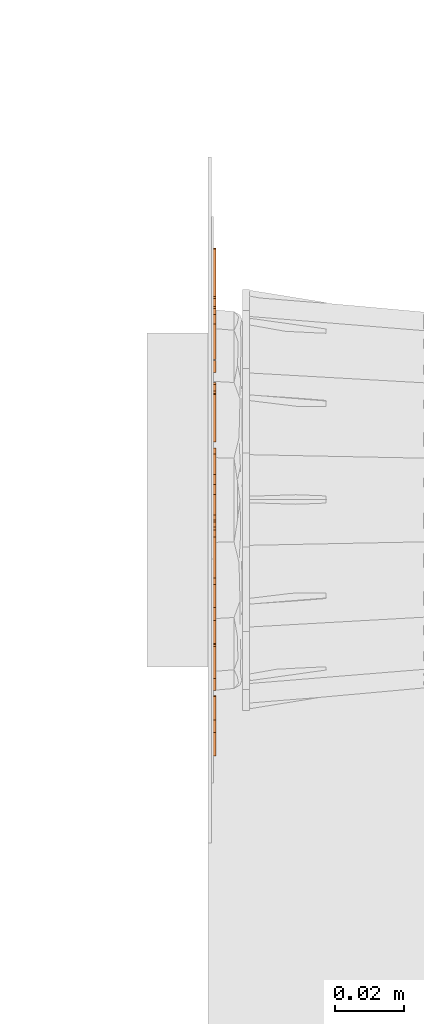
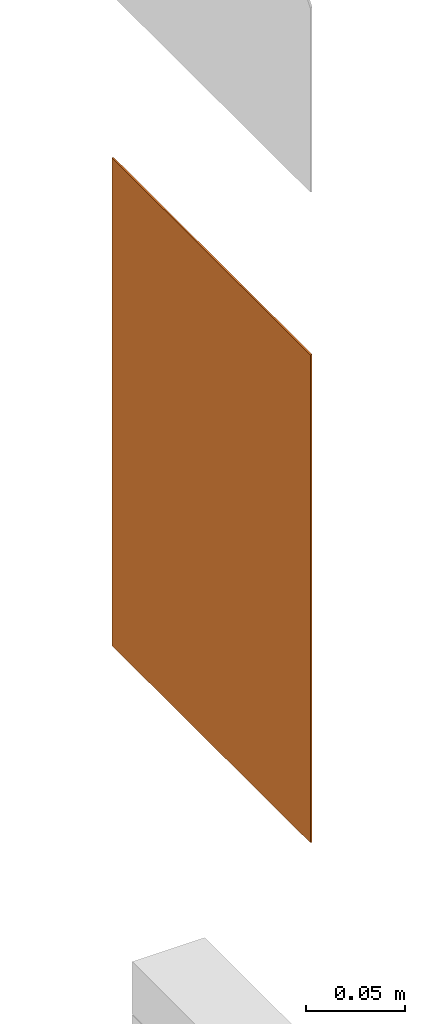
# One storey, part 72 of 119: 1 proxy.
"""IFC2X3 building model written with IfcOpenShell, lengths in metres."""

from ifc_helpers import new_model, entity, si_unit, converted_unit, derived_unit, direction, frame, frame_2d, origin, origin_2d_with_axis, place, context, subcontext, project, spatial, polyline, circle_curve, parameter, trimmed, segment, composite_curve, rectangle, circle, outline, extrude, source, transform, mapped, material, material_list, type_object, type_shapes, element, save


model = new_model("IFC2X3")

# Units and contexts
model_context = context("Model", 3, precision=1e-05, world=origin(), true_north=direction((6.12303176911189e-17, 1.0)))
body_context = subcontext(model_context, "Body", "Model", "MODEL_VIEW")
ifc_project = project(units=[si_unit("LENGTHUNIT", "METRE"), si_unit("AREAUNIT", "SQUARE_METRE"), si_unit("VOLUMEUNIT", "CUBIC_METRE"), converted_unit("PLANEANGLEUNIT", "DEGREE", entity("IfcRatioMeasure", 0.0174532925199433), si_unit("PLANEANGLEUNIT", "RADIAN"), dimensions=[0, 0, 0, 0, 0, 0, 0]), si_unit("MASSUNIT", "GRAM", prefix="KILO"), derived_unit("MASSDENSITYUNIT", [(si_unit("MASSUNIT", "GRAM", prefix="KILO"), 1), (si_unit("LENGTHUNIT", "METRE"), -3)]), derived_unit("MOMENTOFINERTIAUNIT", [(si_unit("LENGTHUNIT", "METRE"), 4)]), si_unit("TIMEUNIT", "SECOND"), si_unit("FREQUENCYUNIT", "HERTZ"), si_unit("THERMODYNAMICTEMPERATUREUNIT", "DEGREE_CELSIUS"), derived_unit("THERMALTRANSMITTANCEUNIT", [(si_unit("MASSUNIT", "GRAM", prefix="KILO"), 1), (si_unit("THERMODYNAMICTEMPERATUREUNIT", "KELVIN"), -1), (si_unit("TIMEUNIT", "SECOND"), -3)]), derived_unit("VOLUMETRICFLOWRATEUNIT", [(si_unit("LENGTHUNIT", "METRE"), 3), (si_unit("TIMEUNIT", "SECOND"), -1)]), si_unit("ELECTRICCURRENTUNIT", "AMPERE"), si_unit("ELECTRICVOLTAGEUNIT", "VOLT"), si_unit("POWERUNIT", "WATT"), si_unit("FORCEUNIT", "NEWTON", prefix="KILO"), si_unit("ILLUMINANCEUNIT", "LUX"), si_unit("LUMINOUSFLUXUNIT", "LUMEN"), si_unit("LUMINOUSINTENSITYUNIT", "CANDELA"), derived_unit("USERDEFINED", [(si_unit("MASSUNIT", "GRAM", prefix="KILO"), -1), (si_unit("LENGTHUNIT", "METRE"), -2), (si_unit("TIMEUNIT", "SECOND"), 3), (si_unit("LUMINOUSFLUXUNIT", "LUMEN"), 1)]), derived_unit("LINEARVELOCITYUNIT", [(si_unit("LENGTHUNIT", "METRE"), 1), (si_unit("TIMEUNIT", "SECOND"), -1)]), si_unit("PRESSUREUNIT", "PASCAL"), derived_unit("USERDEFINED", [(si_unit("LENGTHUNIT", "METRE"), -2), (si_unit("MASSUNIT", "GRAM", prefix="KILO"), 1), (si_unit("TIMEUNIT", "SECOND"), -2)]), derived_unit("LINEARFORCEUNIT", [(si_unit("MASSUNIT", "GRAM", prefix="KILO"), 1), (si_unit("LENGTHUNIT", "METRE"), 1), (si_unit("TIMEUNIT", "SECOND"), -2), (si_unit("LENGTHUNIT", "METRE"), -1)]), derived_unit("PLANARFORCEUNIT", [(si_unit("MASSUNIT", "GRAM", prefix="KILO"), 1), (si_unit("LENGTHUNIT", "METRE"), 1), (si_unit("TIMEUNIT", "SECOND"), -2), (si_unit("LENGTHUNIT", "METRE"), -2)])], contexts=[model_context])

# Site, building, storey
site_placement = place(None, origin())
site = spatial("IfcSite", under=ifc_project, at=site_placement, Name="Default", CompositionType="ELEMENT")
building_placement = place(site_placement, origin())
building = spatial("IfcBuilding", under=site, at=building_placement, CompositionType="ELEMENT")
storey_placement = place(building_placement, origin())
storey = spatial("IfcBuildingStorey", under=building, at=storey_placement, Name="PAV. 01 - TÉRREO", CompositionType="ELEMENT", Elevation=0.0)

# Proxy
ifc_material_1 = material(Name="Plastico branco")
ifc_material_2 = material(Name="Plastico vermelho")
ifc_material_list = material_list([ifc_material_1, ifc_material_2])
building_element_proxy_type = type_object("IfcBuildingElementProxyType", Name="Sinalização de equipamentos - E02 - Comando manual de alarme:Distância 08m", PredefinedType="NOTDEFINED", material=ifc_material_1)
shared_shape = source(origin(), body_context, "Body", "SweptSolid", [
    extrude(outline(polyline([(-0.00862797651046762, -0.00563161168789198), (-0.00493908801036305, -0.00563161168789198), (-0.00349461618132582, -0.00153589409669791), (0.00346718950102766, -0.00153589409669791), (0.00489337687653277, -0.00563161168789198), (0.00863254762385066, -0.00563161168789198), (0.00190386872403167, 0.0127991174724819), (-0.00183530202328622, 0.0127991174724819), (-0.00862797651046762, -0.00563161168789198)]), holes=[polyline([(-0.00237012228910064, 0.00168216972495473), (2.2855566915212e-06, 0.00841084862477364), (0.00234269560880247, 0.00168216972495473), (-0.00237012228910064, 0.00168216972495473)])]), frame((-0.0659680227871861, -0.0022123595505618, 1.53273031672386), z_axis=(0.0, 1.0, 0.0), x_axis=(-1.0, 0.0, 0.0)), (0.0, 0.0, 1.0), 0.0022123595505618),
    extrude(outline(polyline([(-0.00721626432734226, -0.0054609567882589), (0.0112144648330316, -0.0054609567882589), (0.0112144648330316, -0.00195034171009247), (-0.00399820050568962, -0.00195034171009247), (-0.00399820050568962, 0.00741129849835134), (-0.00721626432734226, 0.00741129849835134), (-0.00721626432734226, -0.0054609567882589)])), frame((-0.0501237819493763, -0.0022123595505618, 1.53431496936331), z_axis=(0.0, 1.0, 0.0), x_axis=(0.0, 0.0, 1.0)), (0.0, 0.0, 1.0), 0.0022123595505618),
    extrude(outline(polyline([(-0.00862797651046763, -0.00563161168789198), (-0.00493908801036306, -0.00563161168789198), (-0.00349461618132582, -0.00153589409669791), (0.00346718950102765, -0.00153589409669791), (0.00489337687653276, -0.00563161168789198), (0.00863254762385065, -0.00563161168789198), (0.00190386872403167, 0.0127991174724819), (-0.00183530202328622, 0.0127991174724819), (-0.00862797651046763, -0.00563161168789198)]), holes=[polyline([(-0.00237012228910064, 0.00168216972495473), (2.28555669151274e-06, 0.00841084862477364), (0.00234269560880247, 0.00168216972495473), (-0.00237012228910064, 0.00168216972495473)])]), frame((-0.0332022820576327, -0.0022123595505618, 1.53273031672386), z_axis=(0.0, 1.0, 0.0), x_axis=(-1.0, 0.0, 0.0)), (0.0, 0.0, 1.0), 0.0022123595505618),
    extrude(outline(polyline([(-0.00817015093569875, -0.00955162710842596), (0.0102605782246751, -0.00955162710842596), (0.0102605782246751, -0.00179901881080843), (0.00976232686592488, 0.00245211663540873), (0.00798873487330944, 0.00457311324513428), (0.00506779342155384, 0.00536848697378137), (0.00162574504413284, 0.00421885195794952), (-8.38513611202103e-05, 0.000779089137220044), (-0.00161974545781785, 0.00262124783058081), (-0.00459554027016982, 0.00457768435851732), (-0.00817015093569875, 0.00683124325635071), (-0.00817015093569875, 0.00273095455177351), (-0.00396015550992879, 6.14243360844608e-05), (-0.00146204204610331, -0.00203443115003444), (-0.000563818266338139, -0.00523649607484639), (-0.00817015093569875, -0.00604101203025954), (-0.00817015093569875, -0.00955162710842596)]), holes=[polyline([(0.0026542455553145, -0.00604101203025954), (0.0026542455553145, -0.00314749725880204), (0.00286680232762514, 0.0003654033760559), (0.00698308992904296, -0.000135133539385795), (0.00704251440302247, -0.00298750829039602), (0.00704251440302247, -0.00604101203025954), (0.0026542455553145, -0.00604101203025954)])]), frame((-0.0132673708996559, -0.0022123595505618, 1.53526885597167), z_axis=(0.0, 1.0, 0.0), x_axis=(0.0, 0.0, 1.0)), (0.0, 0.0, 1.0), 0.0022123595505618),
    extrude(outline(polyline([(-0.00835388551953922, -0.0089231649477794), (0.0100768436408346, -0.0089231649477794), (0.0100768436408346, -0.00290757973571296), (-0.00249371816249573, -3.51624106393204e-07), (0.0100768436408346, 0.00290687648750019), (0.0100768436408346, 0.00892246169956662), (-0.00835388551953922, 0.00892246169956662), (-0.00835388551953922, 0.0054118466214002), (0.00615482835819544, 0.00526557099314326), (-0.00835388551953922, 0.00205664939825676), (-0.00835388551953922, -0.00205278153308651), (0.00615482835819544, -0.00526627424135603), (-0.00835388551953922, -0.00541254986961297), (-0.00835388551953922, -0.0089231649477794)])), frame((0.00453489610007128, -0.0022123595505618, 1.53545259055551), z_axis=(0.0, 1.0, 0.0), x_axis=(0.0, 0.0, 1.0)), (0.0, 0.0, 1.0), 0.0022123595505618),
    extrude(outline(polyline([(-0.00931288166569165, -0.00799640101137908), (0.00911784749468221, -0.00799640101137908), (0.00911784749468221, 0.00575350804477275), (0.00589978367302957, 0.00575350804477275), (0.00589978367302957, -0.00448578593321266), (0.0018040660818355, -0.00448578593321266), (0.0018040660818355, 0.00516840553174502), (-0.00141399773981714, 0.00516840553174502), (-0.00141399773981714, -0.00448578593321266), (-0.00609481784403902, -0.00448578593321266), (-0.00609481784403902, 0.00604605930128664), (-0.00931288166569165, 0.00604605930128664), (-0.00931288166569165, -0.00799640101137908)])), frame((0.0249643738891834, -0.0022123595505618, 1.53641158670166), z_axis=(0.0, 1.0, 0.0), x_axis=(0.0, 0.0, 1.0)), (0.0, 0.0, 1.0), 0.0022123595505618),
    extrude(outline(polyline([(-0.00963237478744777, -0.00923822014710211), (-0.00280770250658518, -0.00923822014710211), (0.000712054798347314, -0.00888624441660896), (0.00350043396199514, -0.00718807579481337), (0.00526716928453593, -0.00420313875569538), (0.00587284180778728, 0.000155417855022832), (0.00530602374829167, 0.00407743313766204), (0.00332216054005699, 0.00733206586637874), (0.000698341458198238, 0.00880396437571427), (-0.00260657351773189, 0.00919250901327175), (-0.00963237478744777, 0.00919250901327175), (-0.00963237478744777, -0.00923822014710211)]), holes=[polyline([(-0.00612175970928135, -0.00602015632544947), (-0.00612175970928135, 0.00597444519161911), (-0.00313225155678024, 0.00597444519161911), (-0.000709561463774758, 0.00580074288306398), (0.000906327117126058, 0.00504879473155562), (0.00195539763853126, 0.00330034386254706), (0.00236222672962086, -1.82844535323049e-05), (0.00195539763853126, -0.00324091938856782), (0.000819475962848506, -0.00499622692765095), (-0.00103411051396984, -0.00584645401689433), (-0.00432074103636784, -0.00602015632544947), (-0.00612175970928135, -0.00602015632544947)])]), frame((0.0505895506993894, -0.0022123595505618, 1.53629121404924), z_axis=(0.0, 1.0, 0.0), x_axis=(1.0, 0.0, 0.0)), (0.0, 0.0, 1.0), 0.0022123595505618),
    extrude(outline(polyline([(-0.00931288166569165, -0.00799640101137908), (0.00911784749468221, -0.00799640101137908), (0.00911784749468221, 0.00575350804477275), (0.00589978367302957, 0.00575350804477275), (0.00589978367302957, -0.00448578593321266), (0.0018040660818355, -0.00448578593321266), (0.0018040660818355, 0.00516840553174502), (-0.00141399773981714, 0.00516840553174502), (-0.00141399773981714, -0.00448578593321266), (-0.00609481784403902, -0.00448578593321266), (-0.00609481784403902, 0.00604605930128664), (-0.00931288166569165, 0.00604605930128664), (-0.00931288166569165, -0.00799640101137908)])), frame((0.0673843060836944, -0.0022123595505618, 1.53641158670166), z_axis=(0.0, 1.0, 0.0), x_axis=(0.0, 0.0, 1.0)), (0.0, 0.0, 1.0), 0.0022123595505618),
    extrude(rectangle(XDim=0.0022123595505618, YDim=0.00351061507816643, at=frame_2d((0.0, -4.22838847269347e-18), x_axis=(1.0, 0.0))), frame((-0.0588028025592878, -0.0011061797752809, 1.49460223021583), z_axis=(0.0, 0.0, 1.0), x_axis=(0.0, 1.0, 0.0)), (0.0, 0.0, 1.0), 0.0184307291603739),
    extrude(outline(polyline([(-0.00919708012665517, -0.00744862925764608), (0.00923364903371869, -0.00744862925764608), (0.00923364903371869, -0.00376888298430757), (-0.00317235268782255, 0.00396086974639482), (0.00923364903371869, 0.00396086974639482), (0.00923364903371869, 0.00747148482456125), (-0.00919708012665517, 0.00747148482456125), (-0.00919708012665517, 0.00367746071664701), (0.00302607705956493, -0.00393801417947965), (-0.00919708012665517, -0.00393801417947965), (-0.00919708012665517, -0.00744862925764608)])), frame((-0.046088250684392, -0.0022123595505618, 1.50379931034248), z_axis=(0.0, 1.0, 0.0), x_axis=(0.0, 0.0, 1.0)), (0.0, 0.0, 1.0), 0.0022123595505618),
    extrude(outline(polyline([(0.00431987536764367, 0.00106265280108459), (0.0080203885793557, 0.00106265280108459), (0.00679097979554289, 0.00611977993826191), (0.0025895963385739, 0.00904043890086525), (-0.00392677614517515, 0.00861545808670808), (-0.00830378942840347, 0.00297217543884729), (-0.00825825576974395, -0.00444402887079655), (-0.00308837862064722, -0.00880297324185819), (0.00280208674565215, -0.00859337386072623), (0.0057075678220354, -0.00587580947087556), (0.00256213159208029, -0.004210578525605), (0.000503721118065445, -0.0057818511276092), (-0.00230057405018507, -0.00567343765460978), (-0.00522195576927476, -0.00319871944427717), (-0.00505861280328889, 0.00160616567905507), (-0.0022796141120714, 0.00575840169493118), (0.00144185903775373, 0.00603088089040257), (0.00369975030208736, 0.00431216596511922), (0.00431987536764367, 0.00106265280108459)])), frame((-0.0268737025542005, -0.0022123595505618, 1.50399764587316), z_axis=(0.0, 1.0, 0.0), x_axis=(0.948683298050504, 0.0, -0.316227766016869)), (0.0, 0.0, 1.0), 0.0022123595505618),
    extrude(outline(polyline([(-0.00931288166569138, -0.00799640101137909), (0.00911784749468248, -0.00799640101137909), (0.00911784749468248, 0.00575350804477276), (0.00589978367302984, 0.00575350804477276), (0.00589978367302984, -0.00448578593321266), (0.00180406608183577, -0.00448578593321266), (0.00180406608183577, 0.00516840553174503), (-0.00141399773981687, 0.00516840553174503), (-0.00141399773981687, -0.00448578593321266), (-0.00609481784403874, -0.00448578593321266), (-0.00609481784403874, 0.00604605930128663), (-0.00931288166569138, 0.00604605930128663), (-0.00931288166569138, -0.00799640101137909)])), frame((-0.00867902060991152, -0.0022123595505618, 1.50391511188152), z_axis=(0.0, 1.0, 0.0), x_axis=(0.0, 0.0, 1.0)), (0.0, 0.0, 1.0), 0.0022123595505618),
    extrude(outline(polyline([(-0.00919708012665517, -0.00744862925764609), (0.00923364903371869, -0.00744862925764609), (0.00923364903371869, -0.00376888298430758), (-0.00317235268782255, 0.00396086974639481), (0.00923364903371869, 0.00396086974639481), (0.00923364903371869, 0.00747148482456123), (-0.00919708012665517, 0.00747148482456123), (-0.00919708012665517, 0.003677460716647), (0.00302607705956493, -0.00393801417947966), (-0.00919708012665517, -0.00393801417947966), (-0.00919708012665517, -0.00744862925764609)])), frame((0.00774118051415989, -0.0022123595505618, 1.50379931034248), z_axis=(0.0, 1.0, 0.0), x_axis=(0.0, 0.0, 1.0)), (0.0, 0.0, 1.0), 0.0022123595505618),
    extrude(outline(polyline([(-0.00963237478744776, -0.00923822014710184), (-0.00280770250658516, -0.00923822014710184), (0.000712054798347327, -0.00888624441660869), (0.00350043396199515, -0.00718807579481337), (0.00526716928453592, -0.00420313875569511), (0.0058728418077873, 0.000155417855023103), (0.00530602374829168, 0.00407743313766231), (0.003322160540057, 0.00733206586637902), (0.000698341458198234, 0.00880396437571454), (-0.00260657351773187, 0.00919250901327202), (-0.00963237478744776, 0.00919250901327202), (-0.00963237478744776, -0.00923822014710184)]), holes=[polyline([(-0.00612175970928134, -0.0060201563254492), (-0.00612175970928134, 0.00597444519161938), (-0.00313225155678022, 0.00597444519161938), (-0.000709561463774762, 0.00580074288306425), (0.00090632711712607, 0.00504879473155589), (0.00195539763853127, 0.00330034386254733), (0.00236222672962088, -1.82844535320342e-05), (0.00195539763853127, -0.00324091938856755), (0.000819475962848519, -0.00499622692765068), (-0.00103411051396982, -0.00584645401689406), (-0.00432074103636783, -0.0060201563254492), (-0.00612175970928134, -0.0060201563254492)])]), frame((0.0283556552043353, -0.0022123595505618, 1.5037947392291), z_axis=(0.0, 1.0, 0.0), x_axis=(1.0, 0.0, 0.0)), (0.0, 0.0, 1.0), 0.0022123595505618),
    extrude(rectangle(XDim=0.0022123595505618, YDim=0.00351061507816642, at=origin_2d_with_axis()), frame((0.0389093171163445, -0.0011061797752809, 1.49460223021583), z_axis=(0.0, 0.0, 1.0), x_axis=(0.0, 1.0, 0.0)), (0.0, 0.0, 1.0), 0.0184307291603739),
    extrude(outline(polyline([(-0.0027413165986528, -0.0072353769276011), (0.0020480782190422, -0.0072353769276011), (0.00482213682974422, -0.00601174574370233), (0.00685816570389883, -0.00399502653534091), (0.00824841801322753, -0.000275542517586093), (0.00687087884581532, 0.00646330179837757), (0.000381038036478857, 0.0100380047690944), (-0.00689652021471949, 0.0088964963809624), (-0.0104736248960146, 0.00305448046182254), (-0.00911725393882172, -0.00369921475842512), (-0.0027413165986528, -0.0072353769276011)]), holes=[polyline([(-0.00200878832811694, -0.00379965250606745), (-0.00638392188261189, -0.00151705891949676), (-0.00730473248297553, 0.00249405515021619), (-0.00508828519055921, 0.00593636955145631), (-0.000139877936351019, 0.00656516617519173), (0.00422261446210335, 0.00434280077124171), (0.00508584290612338, 0.000320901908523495), (0.00288428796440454, -0.00318203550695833), (-0.00200878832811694, -0.00379965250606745)])]), frame((0.0511902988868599, -0.0022123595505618, 1.50515350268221), z_axis=(0.0, 1.0, 0.0), x_axis=(0.172750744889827, 0.0, 0.984965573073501)), (0.0, 0.0, 1.0), 0.0022123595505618),
    extrude(outline(polyline([(-0.00331762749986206, -0.00249092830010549), (0.000995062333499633, -0.00249092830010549), (0.00269430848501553, -0.00010950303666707), (0.00127033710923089, 0.00393891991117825), (-0.000258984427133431, 0.00179563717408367), (0.0004052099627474, -0.000295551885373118), (-0.00178830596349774, -0.00034764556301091), (-0.00331762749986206, -0.00249092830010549)])), frame((-0.00979524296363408, -0.0022123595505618, 1.51574950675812), z_axis=(0.0, 1.0, 0.0), x_axis=(0.580837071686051, 0.0, 0.814019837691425)), (0.0, 0.0, 1.0), 0.0022123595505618),
    extrude(circle(Radius=0.0367452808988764, at=frame_2d((-5.36303450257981e-23, -2.70716782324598e-16), x_axis=(1.0, 0.0))), frame((0.0, -0.0011, 1.64973853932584), z_axis=(0.0, 1.0, 0.0), x_axis=(1.0, 0.0, 0.0)), (0.0, 0.0, 1.0), 0.0011),
    extrude(outline(polyline([(-0.0713787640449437, -0.075200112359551), (0.0713787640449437, -0.075200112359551), (0.0752001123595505, -0.0713787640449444), (0.0752001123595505, 0.0713787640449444), (0.0713787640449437, 0.075200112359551), (-0.0713787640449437, 0.075200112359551), (-0.0752001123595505, 0.0713787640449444), (-0.0752001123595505, -0.0713787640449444), (-0.0713787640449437, -0.075200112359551)]), holes=[composite_curve([segment(trimmed(circle_curve(origin_2d_with_axis(), 0.0583057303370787), [parameter(180.0)], [parameter(360.0)], True, "PARAMETER"), False, "CONTINUOUS"), segment(trimmed(circle_curve(origin_2d_with_axis(), 0.0583057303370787), [parameter(0.0)], [parameter(180.0)], True, "PARAMETER"), False, "CONTINUOUS")], self_intersect=False)]), frame((0.0, -0.0011, 1.64973853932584), z_axis=(0.0, 1.0, 0.0), x_axis=(1.0, 0.0, 0.0)), (0.0, 0.0, 1.0), 0.0011),
    extrude(rectangle(XDim=0.001, YDim=0.179, at=origin_2d_with_axis()), frame((0.0, -0.0005, 1.4605), z_axis=(0.0, 0.0, 1.0), x_axis=(0.0, 1.0, 0.0)), (0.0, 0.0, 1.0), 0.279),
    extrude(outline(polyline([(-0.150000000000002, -0.1), (0.150000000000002, -0.1), (0.150000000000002, 0.1), (-0.150000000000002, 0.1), (-0.150000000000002, -0.1)]), holes=[polyline([(-0.139500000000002, -0.0895000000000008), (-0.139500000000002, 0.0894999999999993), (0.139499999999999, 0.0894999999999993), (0.139499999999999, -0.0895000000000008), (-0.139500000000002, -0.0895000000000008)])]), frame((0.0, -0.001, 1.6), z_axis=(0.0, 1.0, 0.0), x_axis=(0.0, 0.0, -1.0)), (0.0, 0.0, 1.0), 0.001),
])
type_shapes(building_element_proxy_type, [shared_shape])
proxy_placement = place(storey_placement, frame((18.7740605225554, 28.4468743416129, 0.0), z_axis=(0.0, 0.0, 1.0), x_axis=(0.0, 1.0, 0.0)))
element("IfcBuildingElementProxy", 1, at=proxy_placement, inside=storey, type_object=building_element_proxy_type, material=ifc_material_list, Name="Sinalização de equipamentos - E02 - Comando manual de alarme:Distância 08m", ObjectType="Sinalização de equipamentos - E02 - Comando manual de alarme:Distância 08m", context=body_context, shape_type="MappedRepresentation", body=[
    mapped(shared_shape, transform((0.0, 0.0, 0.0), scale=1.0)),
])

save(model, "model.ifc")
